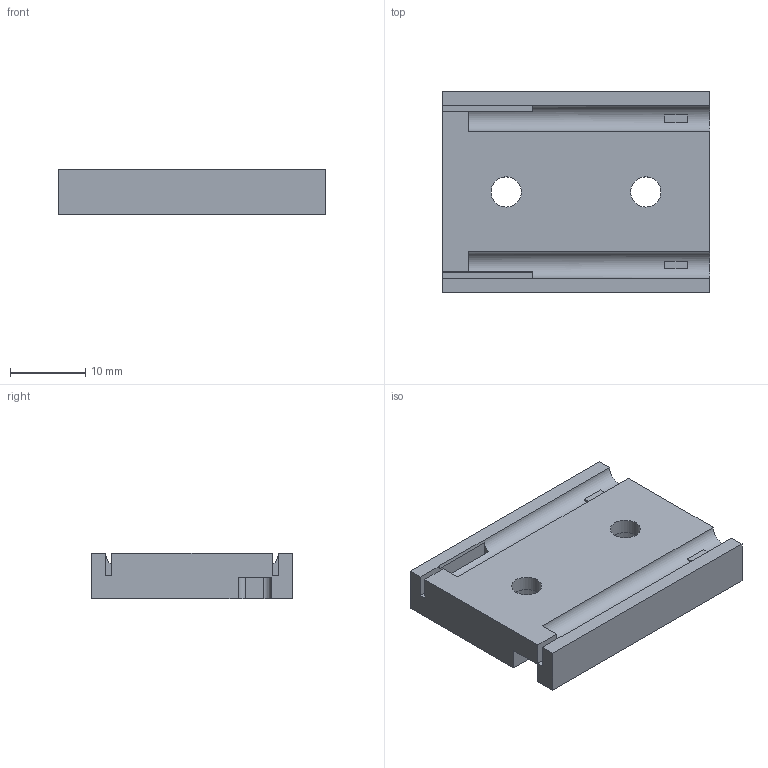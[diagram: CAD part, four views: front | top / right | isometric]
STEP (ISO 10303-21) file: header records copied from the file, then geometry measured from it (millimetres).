
FILE_DESCRIPTION(('FreeCAD Model'),'2;1');
FILE_NAME('Open CASCADE Shape Model','2026-01-28T11:34:07',(''),(''), 'Open CASCADE STEP processor 7.8','FreeCAD','Unknown');
FILE_SCHEMA(('AUTOMOTIVE_DESIGN { 1 0 10303 214 1 1 1 1 }'));
Length unit declared in the file: millimetre
Products named in the file (2): Contact Cover Part; Contact Cover Body
Assembly tree (1 placements, depth 2):
  Contact Cover Part
    Contact Cover Body
Bounding box: 35.5 x 26.7 x 6 mm (x, y, z)
Volume: 4668.2 mm3; surface area: 3186.6 mm2
Topology: 1 solids, 1 shells, 44 faces, 114 edges, 76 vertices
Faces by surface type: plane 36, cylinder 8
Full cylindrical faces by diameter (mm): 4 x2, 7 x2
Entity records: 2902 total; most frequent: CARTESIAN_POINT 524, DIRECTION 448, LINE 294, VECTOR 294, ORIENTED_EDGE 228, PCURVE 228, DEFINITIONAL_REPRESENTATION 228, EDGE_CURVE 114
